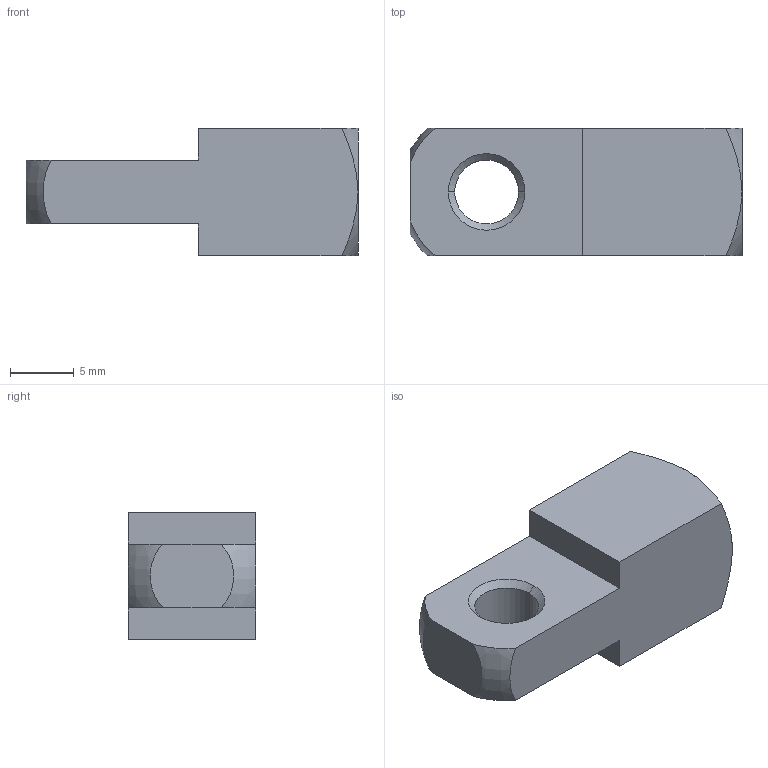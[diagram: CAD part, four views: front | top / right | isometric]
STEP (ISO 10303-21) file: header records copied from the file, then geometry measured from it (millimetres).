
FILE_DESCRIPTION (( 'STEP AP203' ), '1' );
FILE_NAME ('65653.W1005.step', '2014-01-22T12:16:10', ( 'User' ), ( '' ), 'SwSTEP 2.0', 'SolidWorks 2009', '' );
FILE_SCHEMA (( 'CONFIG_CONTROL_DESIGN' ));
Length unit declared in the file: millimetre
Products named in the file (1): 65653.W1005
Bounding box: 26 x 10 x 10 mm (x, y, z)
Volume: 1596.1 mm3; surface area: 1261.1 mm2
Topology: 1 solids, 1 shells, 31 faces, 74 edges, 45 vertices
Faces by surface type: cone 12, plane 11, cylinder 6, torus 2
Entity records: 1063 total; most frequent: CARTESIAN_POINT 273, DIRECTION 152, ORIENTED_EDGE 144, EDGE_CURVE 72, AXIS2_PLACEMENT_3D 60, VERTEX_POINT 45, EDGE_LOOP 35, VECTOR 32
